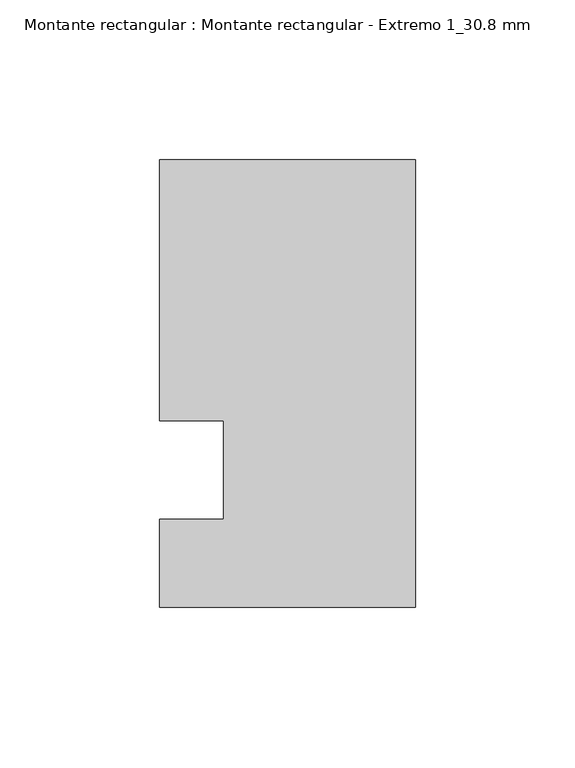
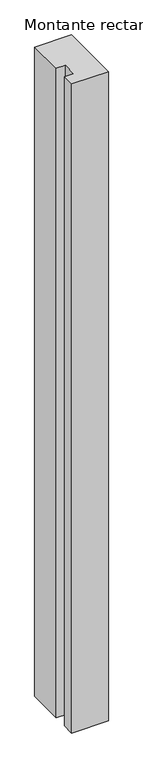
"""IFC4 building model written with IfcOpenShell, lengths in millimetres: member geometry, Montante rectangular : Montante rectangular - Extremo 1_30.8 mm."""

from ifc_helpers import new_model, si_unit, frame, origin, place, context, project, spatial, polyline, outline, extrude, source, transform, mapped, element, save


def montante_rectangular_montante_rectangular_extremo_1_30_8_mm_4f2bc4b4(model_context):
    return source(origin(), model_context, "Body", "SweptSolid", [
        extrude(outline(polyline([(0.0, 80.0), (0.0, -60.0), (-80.0, -60.0), (-80.0, -32.4), (-60.0, -32.4), (-60.0, -1.6), (-80.0, -1.6), (-80.0, 80.0), (0.0, 80.0)])), frame((0.0, 0.0, -1500.0), z_axis=(0.0, 0.0, 1.0), x_axis=(1.0, 0.0, 0.0)), (0.0, 0.0, 1.0), 1500.0),
    ])


if __name__ == "__main__":
    model = new_model("IFC4")
    model_context = context("Model", 3, world=origin())
    ifc_project = project(units=[si_unit("LENGTHUNIT", "METRE", prefix="MILLI")], contexts=[model_context])
    site = spatial("IfcSite", under=ifc_project)
    building = spatial("IfcBuilding", under=site)
    placement = place(None, origin())
    montante_rectangular_montante_rectangular_extremo_1_30_8_mm_shape = montante_rectangular_montante_rectangular_extremo_1_30_8_mm_4f2bc4b4(model_context)
    element("IfcMember", 1, ObjectType="Montante rectangular : Montante rectangular - Extremo 1_30.8 mm", at=placement, inside=building, context=model_context, shape_type="MappedRepresentation", body=[
        mapped(montante_rectangular_montante_rectangular_extremo_1_30_8_mm_shape, transform((0.0, 0.0, 0.0), x_axis=(1.0, 0.0, 0.0), y_axis=(0.0, 1.0, 0.0), z_axis=(0.0, 0.0, 1.0))),
    ])
    save(model, "model.ifc")
